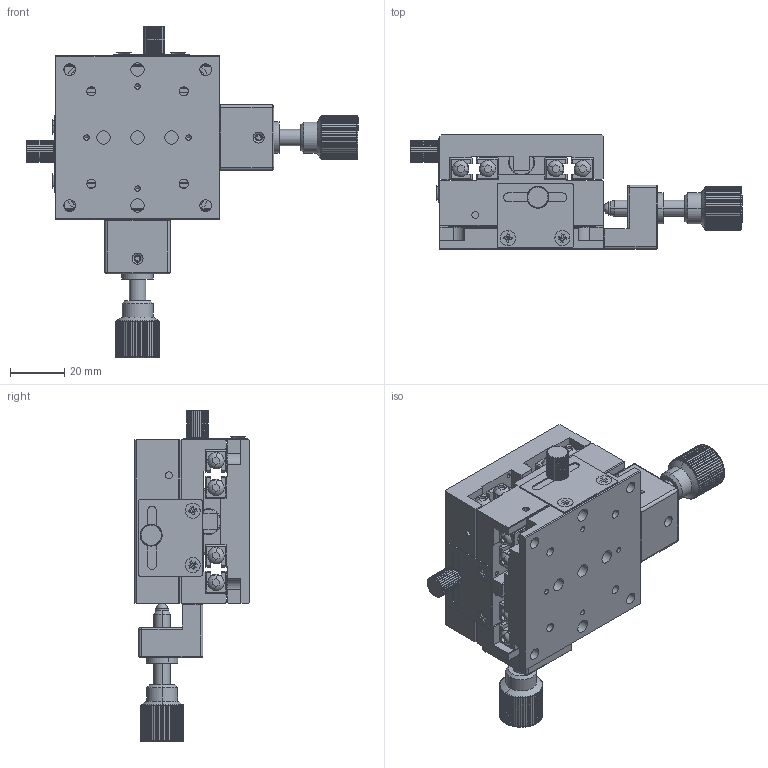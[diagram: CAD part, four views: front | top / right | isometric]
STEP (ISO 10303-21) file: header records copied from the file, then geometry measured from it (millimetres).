
FILE_DESCRIPTION (( 'STEP AP203' ), '1' );
FILE_NAME ('M-TC60XY-05A.STEP', '2017-02-24T02:12:37', ( '' ), ( '' ), 'SwSTEP 2.0', 'SolidWorks 2012', '' );
FILE_SCHEMA (( 'CONFIG_CONTROL_DESIGN' ));
Length unit declared in the file: millimetre
Products named in the file (17): M10X1P-11L銅座; socket set screw flat point_am_PreviewCfg; M6X30L; socket head cap screw_am_B18.3.1M - 3 x 0.5 x 25 Hex SHCS -- 25NHX; M3圓頭; ψ7.5X11.5L; TC60中板; M3x0.5P; M3x0.5P無沉頭; ψ4X3.7L; TC-60-1; 固定片2; TC60面板; 中推-TC60; M3皿頭; TCS60XY底板; M-TC60XY-05A
Assembly tree (69 placements, depth 2):
  M-TC60XY-05A
    M3皿頭  x4
    TCS60XY底板
    TC60面板
    固定片2  x2
    中推-TC60  x2
    ψ4X3.7L  x2
    TC-60-1  x8
    M3x0.5P  x8
    M3x0.5P無沉頭  x12
    M3圓頭  x16
    TC60中板
    ψ7.5X11.5L  x2
    socket head cap screw_am_B18.3.1M - 3 x 0.5 x 25 Hex SHCS -- 25NHX  x4
    socket set screw flat point_am_PreviewCfg  x2
    M10X1P-11L銅座  x2
    M6X30L  x2
Bounding box: 122 x 42 x 122 mm (x, y, z)
Volume: 147372.7 mm3; surface area: 78774.8 mm2
Topology: 69 solids, 69 shells, 2323 faces, 5972 edges, 3784 vertices
Faces by surface type: plane 1315, cylinder 780, cone 164, torus 60, sphere 4
Entity records: 31631 total; most frequent: CARTESIAN_POINT 6200, DIRECTION 4652, ORIENTED_EDGE 4620, EDGE_CURVE 2310, AXIS2_PLACEMENT_3D 1714, VERTEX_POINT 1496, VECTOR 1224, LINE 1224
